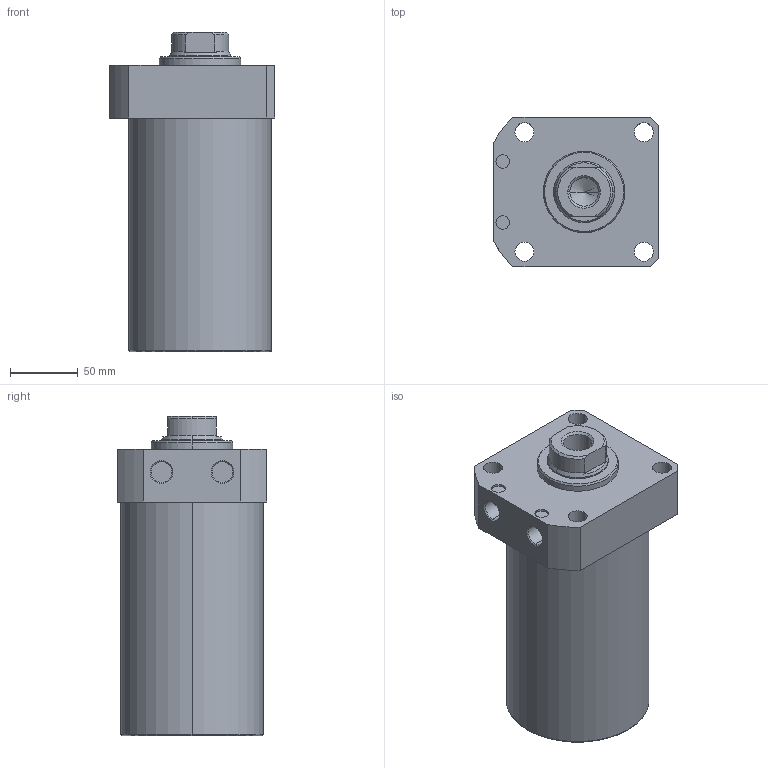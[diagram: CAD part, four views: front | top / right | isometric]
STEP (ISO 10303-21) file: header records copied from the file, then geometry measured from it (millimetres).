
FILE_DESCRIPTION (( 'STEP AP203' ), '1' );
FILE_NAME ('CLLR-105CA-125.STEP', '2019-12-18T07:13:13', ( '' ), ( '' ), 'SwSTEP 2.0', 'SolidWorks 2015', '' );
FILE_SCHEMA (( 'CONFIG_CONTROL_DESIGN' ));
Length unit declared in the file: millimetre
Products named in the file (1): CLLR-105CA-125
Bounding box: 122 x 110 x 235 mm (x, y, z)
Volume: 1986509 mm3; surface area: 115322.4 mm2
Topology: 1 solids, 1 shells, 65 faces, 153 edges, 96 vertices
Faces by surface type: cylinder 29, plane 19, cone 15, torus 2
Entity records: 1971 total; most frequent: DIRECTION 352, CARTESIAN_POINT 337, ORIENTED_EDGE 302, EDGE_CURVE 151, AXIS2_PLACEMENT_3D 143, VERTEX_POINT 96, EDGE_LOOP 81, CIRCLE 77
